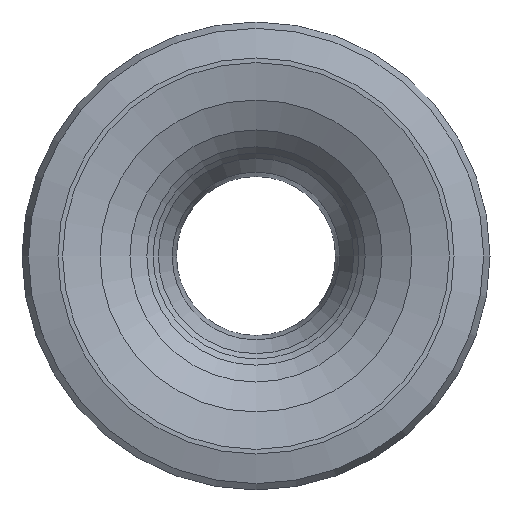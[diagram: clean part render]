
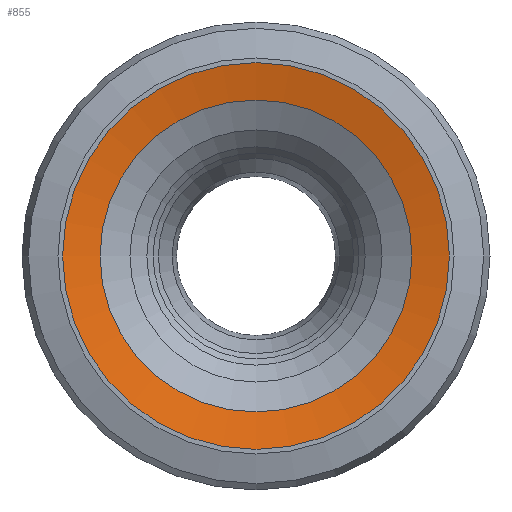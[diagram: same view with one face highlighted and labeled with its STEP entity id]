
A CAD part, front view. The second image highlights one B-rep face of the part: STEP entity #855.
In plain terms, the highlighted conical face has half-angle 78.232 degrees and reference radius 6.2 mm.
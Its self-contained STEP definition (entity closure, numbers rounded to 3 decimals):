
#808 = PLANE('',#809);
#809 = AXIS2_PLACEMENT_3D('',#810,#811,#812);
#810 = CARTESIAN_POINT('',(20.,-72.,43.));
#811 = DIRECTION('',(0.,-1.,0.));
#812 = DIRECTION('',(1.,0.,0.));
#827 = EDGE_CURVE('',#828,#828,#830,.T.);
#828 = VERTEX_POINT('',#829);
#829 = CARTESIAN_POINT('',(26.2,-72.,43.));
#830 = SURFACE_CURVE('',#831,(#836,#843),.PCURVE_S1.);
#831 = CIRCLE('',#832,6.2);
#832 = AXIS2_PLACEMENT_3D('',#833,#834,#835);
#833 = CARTESIAN_POINT('',(20.,-72.,43.));
#834 = DIRECTION('',(0.,-1.,0.));
#835 = DIRECTION('',(1.,0.,0.));
#836 = PCURVE('',#808,#837);
#837 = DEFINITIONAL_REPRESENTATION('',(#838),#842);
#838 = CIRCLE('',#839,6.2);
#839 = AXIS2_PLACEMENT_2D('',#840,#841);
#840 = CARTESIAN_POINT('',(0.,0.));
#841 = DIRECTION('',(1.,0.));
#842 = ( GEOMETRIC_REPRESENTATION_CONTEXT(2) 
PARAMETRIC_REPRESENTATION_CONTEXT() REPRESENTATION_CONTEXT('2D SPACE',''
  ) );
#843 = PCURVE('',#844,#849);
#844 = CONICAL_SURFACE('',#845,6.2,1.365);
#845 = AXIS2_PLACEMENT_3D('',#846,#847,#848);
#846 = CARTESIAN_POINT('',(20.,-72.,43.));
#847 = DIRECTION('',(0.,-1.,0.));
#848 = DIRECTION('',(1.,0.,0.));
#849 = DEFINITIONAL_REPRESENTATION('',(#850),#854);
#850 = LINE('',#851,#852);
#851 = CARTESIAN_POINT('',(0.,-0.));
#852 = VECTOR('',#853,1.);
#853 = DIRECTION('',(1.,-0.));
#854 = ( GEOMETRIC_REPRESENTATION_CONTEXT(2) 
PARAMETRIC_REPRESENTATION_CONTEXT() REPRESENTATION_CONTEXT('2D SPACE',''
  ) );
#855 = ADVANCED_FACE('',(#856),#844,.F.);
#856 = FACE_BOUND('',#857,.T.);
#857 = EDGE_LOOP('',(#858,#859,#882,#909));
#858 = ORIENTED_EDGE('',*,*,#827,.T.);
#859 = ORIENTED_EDGE('',*,*,#860,.T.);
#860 = EDGE_CURVE('',#828,#861,#863,.T.);
#861 = VERTEX_POINT('',#862);
#862 = CARTESIAN_POINT('',(25.,-71.75,43.));
#863 = SEAM_CURVE('',#864,(#868,#875),.PCURVE_S1.);
#864 = LINE('',#865,#866);
#865 = CARTESIAN_POINT('',(26.2,-72.,43.));
#866 = VECTOR('',#867,1.);
#867 = DIRECTION('',(-0.979,0.204,0.)
  );
#868 = PCURVE('',#844,#869);
#869 = DEFINITIONAL_REPRESENTATION('',(#870),#874);
#870 = LINE('',#871,#872);
#871 = CARTESIAN_POINT('',(0.,-0.));
#872 = VECTOR('',#873,1.);
#873 = DIRECTION('',(0.,-1.));
#874 = ( GEOMETRIC_REPRESENTATION_CONTEXT(2) 
PARAMETRIC_REPRESENTATION_CONTEXT() REPRESENTATION_CONTEXT('2D SPACE',''
  ) );
#875 = PCURVE('',#844,#876);
#876 = DEFINITIONAL_REPRESENTATION('',(#877),#881);
#877 = LINE('',#878,#879);
#878 = CARTESIAN_POINT('',(6.283,-0.));
#879 = VECTOR('',#880,1.);
#880 = DIRECTION('',(0.,-1.));
#881 = ( GEOMETRIC_REPRESENTATION_CONTEXT(2) 
PARAMETRIC_REPRESENTATION_CONTEXT() REPRESENTATION_CONTEXT('2D SPACE',''
  ) );
#882 = ORIENTED_EDGE('',*,*,#883,.F.);
#883 = EDGE_CURVE('',#861,#861,#884,.T.);
#884 = SURFACE_CURVE('',#885,(#890,#897),.PCURVE_S1.);
#885 = CIRCLE('',#886,5.);
#886 = AXIS2_PLACEMENT_3D('',#887,#888,#889);
#887 = CARTESIAN_POINT('',(20.,-71.75,43.));
#888 = DIRECTION('',(0.,-1.,0.));
#889 = DIRECTION('',(1.,0.,0.));
#890 = PCURVE('',#844,#891);
#891 = DEFINITIONAL_REPRESENTATION('',(#892),#896);
#892 = LINE('',#893,#894);
#893 = CARTESIAN_POINT('',(0.,-0.25));
#894 = VECTOR('',#895,1.);
#895 = DIRECTION('',(1.,-0.));
#896 = ( GEOMETRIC_REPRESENTATION_CONTEXT(2) 
PARAMETRIC_REPRESENTATION_CONTEXT() REPRESENTATION_CONTEXT('2D SPACE',''
  ) );
#897 = PCURVE('',#898,#903);
#898 = CONICAL_SURFACE('',#899,5.,1.091);
#899 = AXIS2_PLACEMENT_3D('',#900,#901,#902);
#900 = CARTESIAN_POINT('',(20.,-71.75,43.));
#901 = DIRECTION('',(0.,-1.,0.));
#902 = DIRECTION('',(1.,0.,0.));
#903 = DEFINITIONAL_REPRESENTATION('',(#904),#908);
#904 = LINE('',#905,#906);
#905 = CARTESIAN_POINT('',(0.,-0.));
#906 = VECTOR('',#907,1.);
#907 = DIRECTION('',(1.,-0.));
#908 = ( GEOMETRIC_REPRESENTATION_CONTEXT(2) 
PARAMETRIC_REPRESENTATION_CONTEXT() REPRESENTATION_CONTEXT('2D SPACE',''
  ) );
#909 = ORIENTED_EDGE('',*,*,#860,.F.);
